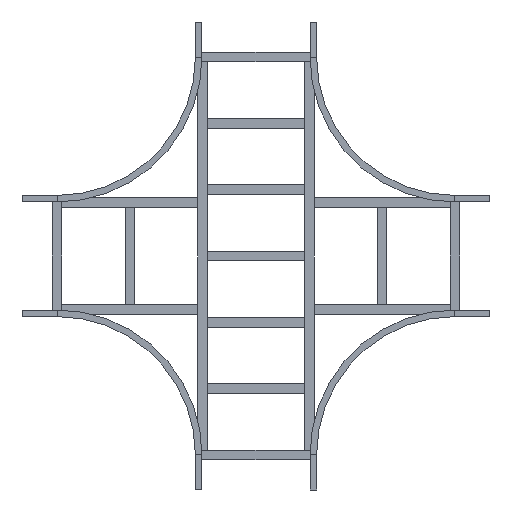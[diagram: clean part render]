
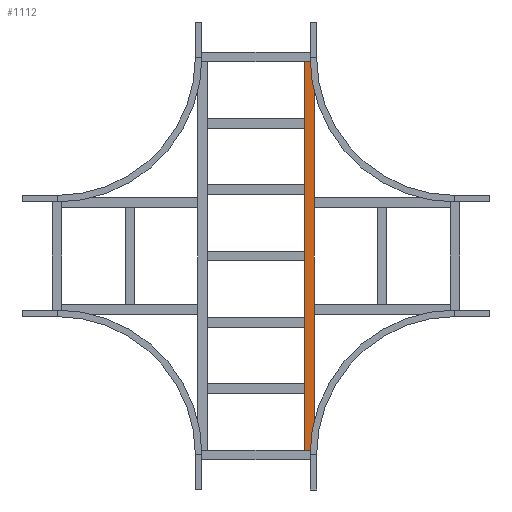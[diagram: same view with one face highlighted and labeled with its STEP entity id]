
A CAD part, front view. The second image highlights one B-rep face of the part: STEP entity #1112.
In plain terms, the highlighted planar face has unit normal (0, -1, 0).
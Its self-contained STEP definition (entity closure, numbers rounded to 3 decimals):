
#50 = DIRECTION ( 'NONE',  ( 0., 0., -1. ) ) ;
#129 = LINE ( 'NONE', #2032, #784 ) ;
#137 = VERTEX_POINT ( 'NONE', #943 ) ;
#171 = EDGE_CURVE ( 'NONE', #137, #2056, #1373, .T. ) ;
#238 = CARTESIAN_POINT ( 'NONE',  ( -829.75, 0., -20.25 ) ) ;
#265 = CARTESIAN_POINT ( 'NONE',  ( 829.75, 0., 20.25 ) ) ;
#295 = PLANE ( 'NONE',  #482 ) ;
#419 = CARTESIAN_POINT ( 'NONE',  ( 829.75, 0., -20.25 ) ) ;
#436 = DIRECTION ( 'NONE',  ( 0., 0., -1. ) ) ;
#482 = AXIS2_PLACEMENT_3D ( 'NONE', #923, #1799, #1184 ) ;
#511 = CARTESIAN_POINT ( 'NONE',  ( 829.75, 0., 20.25 ) ) ;
#544 = VERTEX_POINT ( 'NONE', #419 ) ;
#612 = VERTEX_POINT ( 'NONE', #238 ) ;
#768 = EDGE_CURVE ( 'NONE', #137, #544, #1777, .T. ) ;
#784 = VECTOR ( 'NONE', #1431, 1000. ) ;
#817 = VECTOR ( 'NONE', #50, 1000. ) ;
#837 = ORIENTED_EDGE ( 'NONE', *, *, #768, .F. ) ;
#923 = CARTESIAN_POINT ( 'NONE',  ( 829.75, 0., 20.25 ) ) ;
#943 = CARTESIAN_POINT ( 'NONE',  ( 829.75, 0., 20.25 ) ) ;
#1053 = LINE ( 'NONE', #1891, #2425 ) ;
#1112 = ADVANCED_FACE ( 'NONE', ( #2446 ), #295, .F. ) ;
#1184 = DIRECTION ( 'NONE',  ( 0., 0., 1. ) ) ;
#1260 = VECTOR ( 'NONE', #1332, 1000. ) ;
#1332 = DIRECTION ( 'NONE',  ( -1., 0., 0. ) ) ;
#1373 = LINE ( 'NONE', #511, #1260 ) ;
#1431 = DIRECTION ( 'NONE',  ( -1., 0., 0. ) ) ;
#1644 = ORIENTED_EDGE ( 'NONE', *, *, #171, .T. ) ;
#1777 = LINE ( 'NONE', #265, #817 ) ;
#1799 = DIRECTION ( 'NONE',  ( 0., 1., 0. ) ) ;
#1891 = CARTESIAN_POINT ( 'NONE',  ( -829.75, 0., 20.25 ) ) ;
#1911 = ORIENTED_EDGE ( 'NONE', *, *, #2004, .F. ) ;
#2004 = EDGE_CURVE ( 'NONE', #544, #612, #129, .T. ) ;
#2032 = CARTESIAN_POINT ( 'NONE',  ( 829.75, 0., -20.25 ) ) ;
#2056 = VERTEX_POINT ( 'NONE', #2060 ) ;
#2060 = CARTESIAN_POINT ( 'NONE',  ( -829.75, 0., 20.25 ) ) ;
#2243 = EDGE_CURVE ( 'NONE', #2056, #612, #1053, .T. ) ;
#2425 = VECTOR ( 'NONE', #436, 1000. ) ;
#2446 = FACE_OUTER_BOUND ( 'NONE', #2539, .T. ) ;
#2530 = ORIENTED_EDGE ( 'NONE', *, *, #2243, .T. ) ;
#2539 = EDGE_LOOP ( 'NONE', ( #2530, #1911, #837, #1644 ) ) ;
